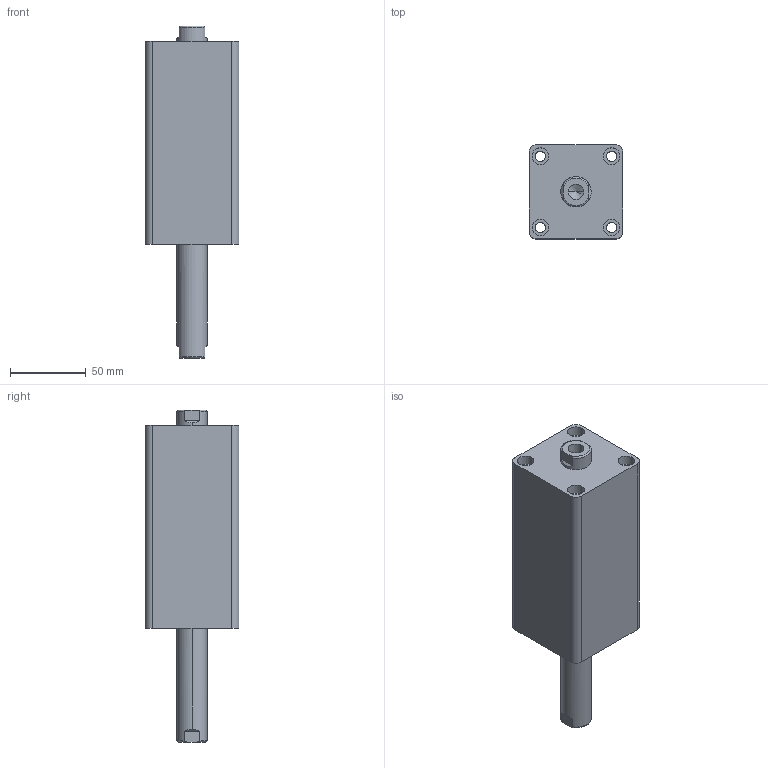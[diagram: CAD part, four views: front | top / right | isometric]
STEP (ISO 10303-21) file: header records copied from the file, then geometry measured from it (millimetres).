
FILE_DESCRIPTION (( 'STEP AP203' ), '1' );
FILE_NAME ('HTB-SW32-65N.STEP', '2019-10-07T08:55:42', ( '微软用户' ), ( '微软中国' ), 'SwSTEP 2.0', 'SolidWorks 2012', '' );
FILE_SCHEMA (( 'CONFIG_CONTROL_DESIGN' ));
Length unit declared in the file: millimetre
Products named in the file (3): HTB-SW32-65N; HTB-SW32-65N活塞杆; HTB-SW32-65掛极
Assembly tree (2 placements, depth 2):
  HTB-SW32-65N
    HTB-SW32-65掛极
    HTB-SW32-65N活塞杆
Bounding box: 62 x 62 x 219 mm (x, y, z)
Volume: 479393 mm3; surface area: 81075 mm2
Topology: 2 solids, 2 shells, 100 faces, 228 edges, 146 vertices
Faces by surface type: cylinder 48, plane 32, torus 12, cone 8
Entity records: 3237 total; most frequent: CARTESIAN_POINT 595, DIRECTION 542, ORIENTED_EDGE 448, AXIS2_PLACEMENT_3D 229, EDGE_CURVE 224, VERTEX_POINT 146, EDGE_LOOP 128, CIRCLE 124
